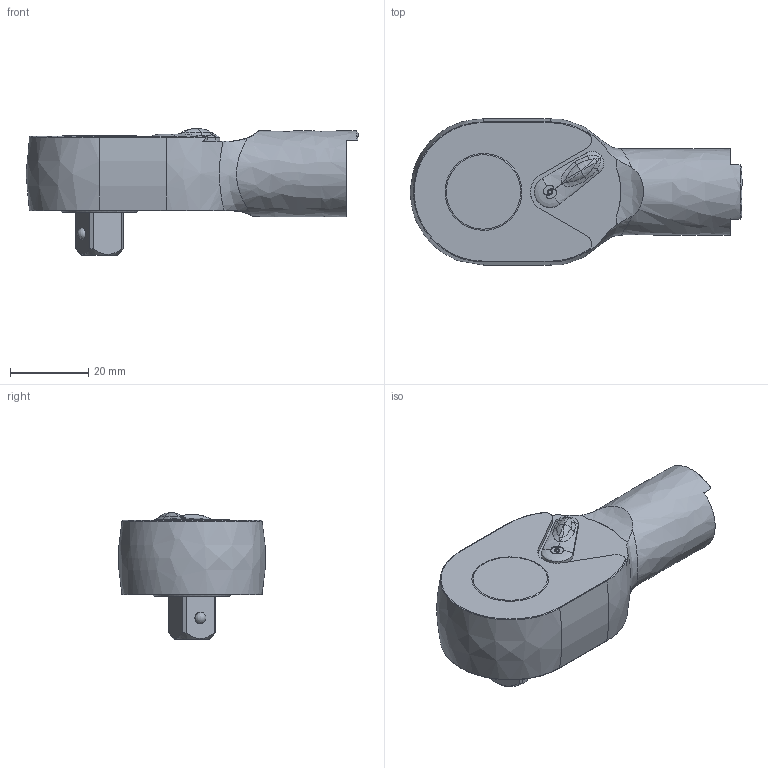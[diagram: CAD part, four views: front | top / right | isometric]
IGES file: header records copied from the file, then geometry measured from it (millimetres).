
Global section: file name: QH15D-3／8,2; native system: 2HAutodesk Inventor 2016; preprocessor: unknown; author: Q600; date: 20151016.165022; units: millimetre
Bounding box: 84.75 x 37.3 x 32.4 mm (x, y, z)
Volume: 40663.1 mm3; surface area: 9480.7 mm2
Topology: 1 solids, 1 shells, 89 faces, 235 edges, 149 vertices
Faces by surface type: bspline 89
